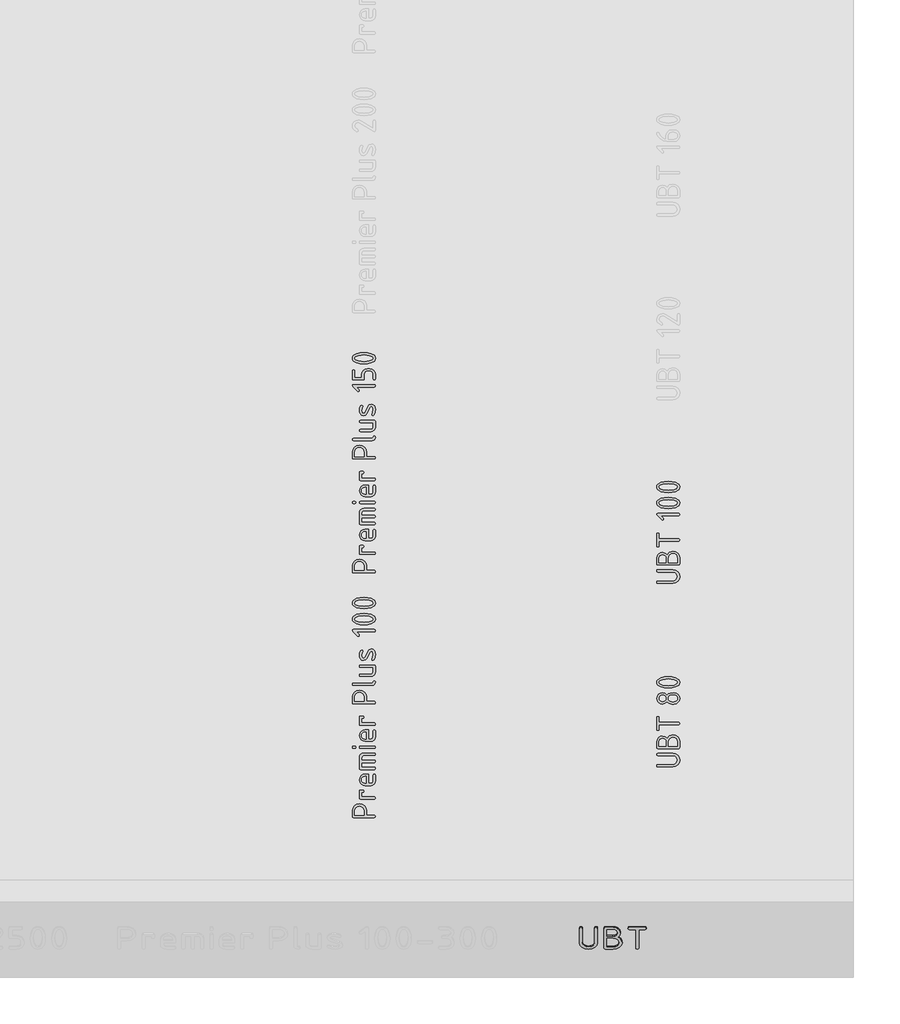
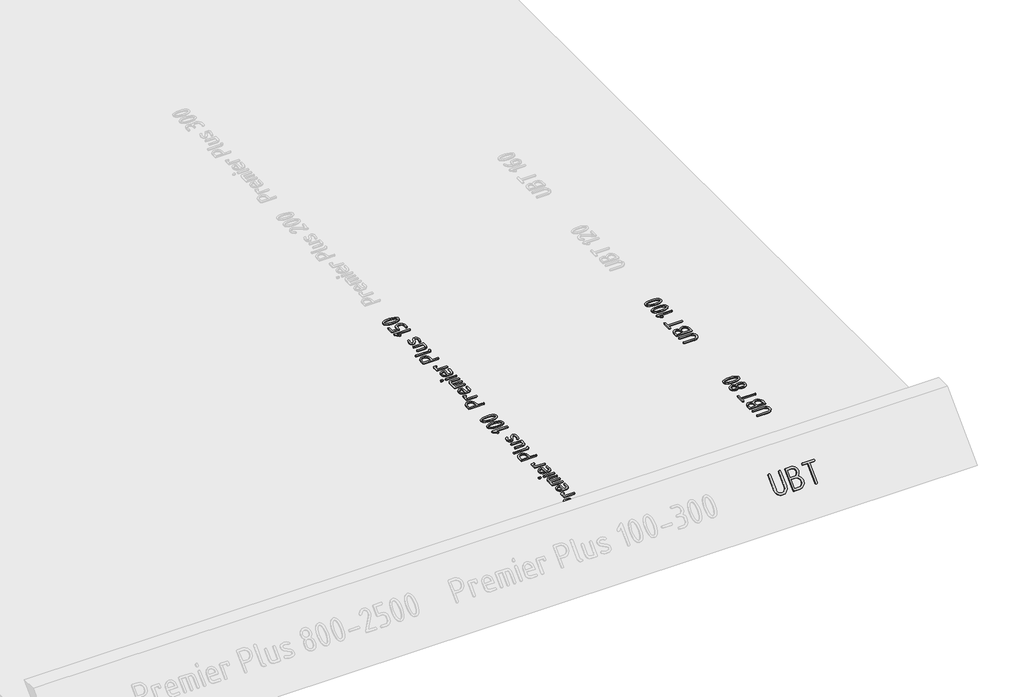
# One storey, part 29 of 37: 5 proxies.
"""IFC4 building model written with IfcOpenShell, lengths in millimetres."""

from ifc_helpers import new_model, si_unit, frame, origin, place, context, project, spatial, polyline, outline, extrude, element, save

model = new_model("IFC4")

# Units and contexts
model_context = context("Model", 3, world=origin())
ifc_project = project(units=[si_unit("LENGTHUNIT", "METRE", prefix="MILLI")], contexts=[model_context])

# Site, building, storey
site = spatial("IfcSite", under=ifc_project)
building = spatial("IfcBuilding", under=site)
storey = spatial("IfcBuildingStorey", under=building, Name="01_Стартовый вид_Площадка", Elevation=0.0)

# Proxies
placement = place(None, origin())
element("IfcBuildingElementProxy", 1, Name="200мм", ObjectType="200мм", at=placement, inside=storey, context=model_context, shape_type="SweptSolid", body=[
    extrude(outline(polyline([(7.9720216, 0.0), (131.7875259, -41.9269433), (152.3216666, -53.491984), (166.5977059, -72.1612412), (172.9760707, -94.6799948), (169.8171877, -117.793525), (158.2828469, -138.0709214), (139.5348379, -152.0812733), (116.8529077, -158.2356624), (93.5168034, -154.9451706), (-30.2987009, -113.0182273), (-36.6305486, -108.1745889), (-36.5542661, -100.1018584), (-31.7226408, -93.6394027), (-23.7884601, -93.6265889), (99.825226, -135.4851916), (115.4887992, -137.7874481), (130.4913242, -133.8622364), (142.8151521, -124.6854118), (150.4426345, -111.2328298), (152.5579554, -95.9136957), (148.3452996, -81.1372152), (138.814292, -68.9043522), (124.9745579, -61.2160708), (1.3608718, -19.3574681), (-4.9331351, -14.5266436), (-4.8442389, -6.4581844), (0.0, 0.0), (7.9720216, 0.0)])), frame((34805.8999911, -17888.306847, 243.3672278), z_axis=(0.0, -0.7071067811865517, 0.7071067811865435), x_axis=(0.3207345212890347, -0.6697497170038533, -0.6697497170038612)), (0.0, 0.0, 1.0), 10.0),
    extrude(outline(polyline([(22.6282753, -1e-07), (22.0238968, 15.8740584), (25.3574849, 30.2413957), (32.6290396, 43.1020119), (43.8385611, 54.455907), (64.3569418, 65.3546993), (87.5595215, 67.2010169), (109.8409821, 60.3762532), (127.5960054, 45.2618018), (158.7465525, 6.5356757), (161.4679402, -0.8632553), (157.1451746, -7.5363918), (16.1040423, -120.9871516), (8.6678914, -123.7897509), (2.0491232, -119.57707), (-29.0346489, -80.9339581), (-38.2153168, -63.6138972), (-39.5815125, -44.1952824), (-33.483515, -25.4722251), (-20.2716031, -10.2388365), (0.0, 0.0), (22.6282753, -1e-07)]), holes=[polyline([(11.3771233, -98.53786), (59.1933047, -60.0754482), (34.7870348, -29.7337567), (25.98961, -22.3770187), (14.8220403, -19.2340431), (3.0775094, -20.4518759), (-7.4507992, -26.1775636), (-15.29976, -35.2341961), (-19.0062477, -46.4448639), (-18.3295981, -58.0265327), (-13.0291467, -68.1961685), (11.3771233, -98.53786)]), polyline([(75.1320318, -47.2546443), (136.2304859, 1.8917708), (111.6572783, 32.4409978), (99.9222229, 42.4936519), (85.3505379, 47.0002251), (70.1516145, 45.7211896), (56.5348438, 38.4170173), (46.4821897, 26.6819619), (41.9756165, 12.1102769), (43.2546519, -3.0886465), (50.5588242, -16.7054172), (75.1320318, -47.2546443)])]), frame((34953.734236, -17938.3941835, 193.2798914), z_axis=(0.0, -0.7071067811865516, 0.7071067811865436), x_axis=(-0.6267741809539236, -0.5509782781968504, -0.5509782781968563)), (0.0, 0.0, 1.0), 10.0),
    extrude(outline(polyline([(8.068949, 0.0), (14.5842427, -4.7601348), (14.6844672, -12.6936928), (-16.4878043, -108.200227), (-21.236598, -114.5090936), (-29.3014148, -114.4964336), (-35.8208407, -109.7489588), (-35.9334613, -101.8533806), (-23.5207487, -63.822942), (-185.7704496, -10.8664424), (-192.1172959, -6.1052527), (-192.1172959, 1.9636963), (-187.3571611, 8.4789901), (-179.4236032, 8.5792146), (-17.1739024, -44.377285), (-4.7611898, -6.3468464), (0.0, 0.0), (8.068949, 0.0)])), frame((35009.8129681, -17899.1831158, 232.490959), z_axis=(0.0, -0.7071067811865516, 0.7071067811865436), x_axis=(-0.3102800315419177, 0.6722076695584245, 0.6722076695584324)), (0.0, 0.0, 1.0), 10.0),
])
element("IfcBuildingElementProxy", 2, Name="150 мм", ObjectType="150 мм", at=placement, inside=storey, context=model_context, shape_type="SweptSolid", body=[
    extrude(outline(polyline([(35202.1598658, -16755.5522205), (35300.2010973, -16755.5522205), (35317.5700563, -16758.8282519), (35332.2023305, -16768.656346), (35342.1502794, -16783.118826), (35345.4662624, -16800.2980149), (35342.1502794, -16817.4772038), (35332.2023305, -16831.9396837), (35317.5700563, -16841.7677778), (35300.2010973, -16845.0438092), (35202.1598658, -16845.0438092), (35196.4967262, -16843.1261323), (35194.609013, -16837.3731016), (35196.4867383, -16831.6200709), (35202.1199142, -16829.702394), (35300.0013393, -16829.702394), (35311.6821889, -16827.5699772), (35321.3954222, -16821.172727), (35327.942491, -16811.6892154), (35330.1248472, -16800.2980149), (35327.942491, -16788.9068143), (35321.3954222, -16779.4233028), (35311.6821889, -16773.0260525), (35300.0013393, -16770.8936357), (35202.1199142, -16770.8936357), (35196.4867383, -16768.9759588), (35194.609013, -16763.2229281), (35196.4967262, -16757.4698974), (35202.1598658, -16755.5522205)])), frame((0.0, 0.0, 11.1696829), z_axis=(0.0, 0.0, 1.0), x_axis=(1.0, 0.0, 0.0)), (0.0, 0.0, 1.0), 10.0),
    extrude(outline(polyline([(35262.8463493, -16657.2313278), (35278.6571958, -16640.8411831), (35300.8403229, -16635.3778015), (35317.9545904, -16638.6538329), (35332.3821127, -16648.481927), (35342.195225, -16662.9444069), (35345.4662624, -16680.1235958), (35345.4662624, -16717.3984406), (35343.5785492, -16723.0016527), (35337.9154096, -16724.8693901), (35202.1598658, -16724.8693901), (35196.4967262, -16723.0116406), (35194.609013, -16717.4383922), (35194.609013, -16680.2434506), (35197.3856493, -16665.8059404), (35205.7155584, -16653.8154659), (35218.0805792, -16645.7402483), (35232.962551, -16643.0485091), (35249.622369, -16646.5942138), (35262.8463493, -16657.2313278)]), holes=[polyline([(35271.316089, -16709.5279749), (35330.1248472, -16709.5279749), (35330.1248472, -16680.1235958), (35327.9924305, -16668.7323953), (35321.5951802, -16659.2488837), (35312.1116686, -16652.8516335), (35300.7204681, -16650.7192167), (35289.3292675, -16652.8516335), (35279.845756, -16659.2488837), (35273.4485057, -16668.7323953), (35271.316089, -16680.1235958), (35271.316089, -16709.5279749)]), polyline([(35209.9504282, -16709.5279749), (35255.9746738, -16709.5279749), (35255.9746738, -16680.3233538), (35254.2917125, -16671.8885718), (35249.2428288, -16664.8021564), (35241.8068369, -16659.9929823), (35232.962551, -16658.3899243), (35224.1182651, -16659.9929823), (35216.6822731, -16664.8021564), (35211.6333894, -16671.8885718), (35209.9504282, -16680.3233538), (35209.9504282, -16709.5279749)])]), frame((0.0, 0.0, 11.1696829), z_axis=(0.0, 0.0, 1.0), x_axis=(1.0, 0.0, 0.0)), (0.0, 0.0, 1.0), 10.0),
    extrude(outline(polyline([(35202.2797206, -16606.41289), (35196.5266899, -16604.5351647), (35194.609013, -16598.9019888), (35194.609013, -16523.5532673), (35196.5266899, -16517.9500551), (35202.2797206, -16516.0823177), (35208.0327513, -16517.9500551), (35209.9504282, -16523.5532673), (35209.9504282, -16553.5569204), (35337.9553612, -16553.5569204), (35343.5885371, -16555.4745973), (35345.4662624, -16561.227628), (35343.5885371, -16566.9806587), (35337.9553612, -16568.8983356), (35209.9504282, -16568.8983356), (35209.9504282, -16598.9019888), (35208.0327513, -16604.5351647), (35202.2797206, -16606.41289)])), frame((0.0, 0.0, 11.1696829), z_axis=(0.0, 0.0, 1.0), x_axis=(1.0, 0.0, 0.0)), (0.0, 0.0, 1.0), 10.0),
    extrude(outline(polyline([(35345.4662624, -16396.3074147), (35342.7096019, -16410.5551548), (35334.4396202, -16422.5356414), (35322.2543816, -16430.6707864), (35307.7519501, -16433.3825014), (35292.6502445, -16433.3825014), (35275.7407289, -16429.5471476), (35262.4867849, -16418.0410862), (35249.2328409, -16429.5471476), (35232.3233253, -16433.3825014), (35217.8208938, -16430.6707864), (35205.6356551, -16422.5356414), (35197.3656735, -16410.5551548), (35194.609013, -16396.3074147), (35197.3656735, -16382.0596746), (35205.6356551, -16370.0791879), (35217.8208938, -16361.9440429), (35232.3233253, -16359.2323279), (35249.2328409, -16363.0676817), (35262.4867849, -16374.5737431), (35271.6656655, -16366.3237373), (35282.7422472, -16361.7892305), (35307.7519501, -16359.2323279), (35322.2543816, -16361.9440429), (35334.4396202, -16370.0791879), (35342.7096019, -16382.0596746), (35345.4662624, -16396.3074147)]), holes=[polyline([(35330.1248472, -16396.3074147), (35328.4868315, -16387.8976024), (35323.5727845, -16380.8860963), (35316.3015929, -16376.1518314), (35307.5921436, -16374.5737431), (35292.6102929, -16374.5737431), (35283.9807468, -16376.1668133), (35276.7095552, -16380.9460237), (35271.7655445, -16387.9725117), (35270.1175409, -16396.3074147), (35271.7505626, -16404.7172269), (35276.6496278, -16411.7287331), (35283.9058376, -16416.4629979), (35292.6102929, -16418.0410862), (35307.5921436, -16418.0410862), (35316.3015929, -16416.4629979), (35323.5727845, -16411.7287331), (35328.4868315, -16404.7172269), (35330.1248472, -16396.3074147)]), polyline([(35255.4553029, -16396.3074147), (35253.8222812, -16387.8976024), (35248.923216, -16380.8860963), (35241.6670063, -16376.1518314), (35232.962551, -16374.5737431), (35224.3330049, -16376.1668133), (35217.0618133, -16380.9460237), (35212.1178026, -16387.9725117), (35210.469799, -16396.3074147), (35212.1028207, -16404.7172269), (35217.0018859, -16411.7287331), (35224.2580957, -16416.4629979), (35232.962551, -16418.0410862), (35241.6670063, -16416.4629979), (35248.923216, -16411.7287331), (35253.8222812, -16404.7172269), (35255.4553029, -16396.3074147)])]), frame((0.0, 0.0, 11.1696829), z_axis=(0.0, 0.0, 1.0), x_axis=(1.0, 0.0, 0.0)), (0.0, 0.0, 1.0), 10.0),
    extrude(outline(polyline([(35270.0376377, -16254.3993241), (35295.1771833, -16256.0273519), (35316.6611573, -16260.9114352), (35338.2649861, -16273.3263956), (35343.6659433, -16281.6837713), (35345.4662624, -16291.4744108), (35343.6734343, -16301.2650503), (35338.2949498, -16309.6224261), (35316.7810121, -16322.0373864), (35295.2670744, -16326.9214698), (35270.0376377, -16328.5494975), (35244.808201, -16326.9214698), (35223.2942633, -16322.0373864), (35201.7803255, -16309.6224261), (35196.4018411, -16301.2650503), (35194.609013, -16291.4744108), (35196.409332, -16281.6837713), (35201.8102892, -16273.3263956), (35223.4141181, -16260.9114352), (35244.8980921, -16256.0273519), (35270.0376377, -16254.3993241)]), holes=[polyline([(35270.0376377, -16269.7407393), (35234.8802279, -16273.5760931), (35216.1828781, -16280.9671395), (35209.9504282, -16291.4744108), (35216.2128418, -16301.8917911), (35235.0000827, -16309.2528737), (35270.0376377, -16313.2080823), (35305.1950475, -16309.3727285), (35323.8923973, -16301.9816822), (35330.1248472, -16291.4744108), (35323.8923973, -16280.9671395), (35305.1950475, -16273.5760931), (35270.0376377, -16269.7407393)])]), frame((0.0, 0.0, 11.1696829), z_axis=(0.0, 0.0, 1.0), x_axis=(1.0, 0.0, 0.0)), (0.0, 0.0, 1.0), 10.0),
])
element("IfcBuildingElementProxy", 3, Name="150 мм", ObjectType="150 мм", at=placement, inside=storey, context=model_context, shape_type="SweptSolid", body=[
    extrude(outline(polyline([(35202.1598658, -15555.5522205), (35300.2010973, -15555.5522205), (35317.5700563, -15558.8282519), (35332.2023305, -15568.656346), (35342.1502794, -15583.118826), (35345.4662624, -15600.2980149), (35342.1502794, -15617.4772038), (35332.2023305, -15631.9396837), (35317.5700563, -15641.7677778), (35300.2010973, -15645.0438092), (35202.1598658, -15645.0438092), (35196.4967262, -15643.1261323), (35194.609013, -15637.3731016), (35196.4867383, -15631.6200709), (35202.1199142, -15629.702394), (35300.0013393, -15629.702394), (35311.6821889, -15627.5699772), (35321.3954222, -15621.172727), (35327.942491, -15611.6892154), (35330.1248472, -15600.2980149), (35327.942491, -15588.9068143), (35321.3954222, -15579.4233028), (35311.6821889, -15573.0260525), (35300.0013393, -15570.8936357), (35202.1199142, -15570.8936357), (35196.4867383, -15568.9759588), (35194.609013, -15563.2229281), (35196.4967262, -15557.4698974), (35202.1598658, -15555.5522205)])), frame((0.0, 0.0, 11.1696829), z_axis=(0.0, 0.0, 1.0), x_axis=(1.0, 0.0, 0.0)), (0.0, 0.0, 1.0), 10.0),
    extrude(outline(polyline([(35262.8463493, -15457.2313278), (35278.6571958, -15440.8411831), (35300.8403229, -15435.3778015), (35317.9545904, -15438.6538329), (35332.3821127, -15448.481927), (35342.195225, -15462.9444069), (35345.4662624, -15480.1235958), (35345.4662624, -15517.3984406), (35343.5785492, -15523.0016527), (35337.9154096, -15524.8693901), (35202.1598658, -15524.8693901), (35196.4967262, -15523.0116406), (35194.609013, -15517.4383922), (35194.609013, -15480.2434506), (35197.3856493, -15465.8059404), (35205.7155584, -15453.8154659), (35218.0805792, -15445.7402483), (35232.962551, -15443.0485091), (35249.622369, -15446.5942138), (35262.8463493, -15457.2313278)]), holes=[polyline([(35271.316089, -15509.5279749), (35330.1248472, -15509.5279749), (35330.1248472, -15480.1235958), (35327.9924305, -15468.7323953), (35321.5951802, -15459.2488837), (35312.1116686, -15452.8516335), (35300.7204681, -15450.7192167), (35289.3292675, -15452.8516335), (35279.845756, -15459.2488837), (35273.4485057, -15468.7323953), (35271.316089, -15480.1235958), (35271.316089, -15509.5279749)]), polyline([(35209.9504282, -15509.5279749), (35255.9746738, -15509.5279749), (35255.9746738, -15480.3233538), (35254.2917125, -15471.8885718), (35249.2428288, -15464.8021564), (35241.8068369, -15459.9929823), (35232.962551, -15458.3899243), (35224.1182651, -15459.9929823), (35216.6822731, -15464.8021564), (35211.6333894, -15471.8885718), (35209.9504282, -15480.3233538), (35209.9504282, -15509.5279749)])]), frame((0.0, 0.0, 11.1696829), z_axis=(0.0, 0.0, 1.0), x_axis=(1.0, 0.0, 0.0)), (0.0, 0.0, 1.0), 10.0),
    extrude(outline(polyline([(35202.2797206, -15406.41289), (35196.5266899, -15404.5351647), (35194.609013, -15398.9019888), (35194.609013, -15323.5532673), (35196.5266899, -15317.9500551), (35202.2797206, -15316.0823177), (35208.0327513, -15317.9500551), (35209.9504282, -15323.5532673), (35209.9504282, -15353.5569204), (35337.9553612, -15353.5569204), (35343.5885371, -15355.4745973), (35345.4662624, -15361.227628), (35343.5885371, -15366.9806587), (35337.9553612, -15368.8983356), (35209.9504282, -15368.8983356), (35209.9504282, -15398.9019888), (35208.0327513, -15404.5351647), (35202.2797206, -15406.41289)])), frame((0.0, 0.0, 11.1696829), z_axis=(0.0, 0.0, 1.0), x_axis=(1.0, 0.0, 0.0)), (0.0, 0.0, 1.0), 10.0),
    extrude(outline(polyline([(35220.3378447, -15202.699671), (35237.6368884, -15219.9587631), (35239.7942749, -15225.192423), (35237.9165496, -15230.8255989), (35232.2833737, -15232.7033242), (35227.0497139, -15230.505986), (35197.5654315, -15201.1815101), (35194.609013, -15195.0289634), (35196.4967262, -15189.2759327), (35202.1598658, -15187.3582558), (35337.9154096, -15187.3582558), (35343.5785492, -15189.2759327), (35345.4662624, -15195.0289634), (35343.5785492, -15200.7819941), (35337.9154096, -15202.699671), (35220.3378447, -15202.699671)])), frame((0.0, 0.0, 11.1696829), z_axis=(0.0, 0.0, 1.0), x_axis=(1.0, 0.0, 0.0)), (0.0, 0.0, 1.0), 10.0),
    extrude(outline(polyline([(35270.0376377, -15082.5252519), (35295.1771833, -15084.1532797), (35316.6611573, -15089.0373631), (35338.2649861, -15101.4523234), (35343.6659433, -15109.8096992), (35345.4662624, -15119.6003387), (35343.6734343, -15129.3909782), (35338.2949498, -15137.7483539), (35316.7810121, -15150.1633143), (35295.2670744, -15155.0473976), (35270.0376377, -15156.6754254), (35244.808201, -15155.0473976), (35223.2942633, -15150.1633143), (35201.7803255, -15137.7483539), (35196.4018411, -15129.3909782), (35194.609013, -15119.6003387), (35196.409332, -15109.8096992), (35201.8102892, -15101.4523234), (35223.4141181, -15089.0373631), (35244.8980921, -15084.1532797), (35270.0376377, -15082.5252519)]), holes=[polyline([(35270.0376377, -15097.8666671), (35234.8802279, -15101.7020209), (35216.1828781, -15109.0930673), (35209.9504282, -15119.6003387), (35216.2128418, -15130.0177189), (35235.0000827, -15137.3788016), (35270.0376377, -15141.3340102), (35305.1950475, -15137.4986564), (35323.8923973, -15130.10761), (35330.1248472, -15119.6003387), (35323.8923973, -15109.0930673), (35305.1950475, -15101.7020209), (35270.0376377, -15097.8666671)])]), frame((0.0, 0.0, 11.1696829), z_axis=(0.0, 0.0, 1.0), x_axis=(1.0, 0.0, 0.0)), (0.0, 0.0, 1.0), 10.0),
    extrude(outline(polyline([(35270.0376377, -14977.6922481), (35295.1771833, -14979.3202759), (35316.6611573, -14984.2043592), (35338.2649861, -14996.6193196), (35343.6659433, -15004.9766953), (35345.4662624, -15014.7673348), (35343.6734343, -15024.5579743), (35338.2949498, -15032.9153501), (35316.7810121, -15045.3303104), (35295.2670744, -15050.2143938), (35270.0376377, -15051.8424216), (35244.808201, -15050.2143938), (35223.2942633, -15045.3303104), (35201.7803255, -15032.9153501), (35196.4018411, -15024.5579743), (35194.609013, -15014.7673348), (35196.409332, -15004.9766953), (35201.8102892, -14996.6193196), (35223.4141181, -14984.2043592), (35244.8980921, -14979.3202759), (35270.0376377, -14977.6922481)]), holes=[polyline([(35270.0376377, -14993.0336633), (35234.8802279, -14996.8690171), (35216.1828781, -15004.2600635), (35209.9504282, -15014.7673348), (35216.2128418, -15025.1847151), (35235.0000827, -15032.5457978), (35270.0376377, -15036.5010064), (35305.1950475, -15032.6656526), (35323.8923973, -15025.2746062), (35330.1248472, -15014.7673348), (35323.8923973, -15004.2600635), (35305.1950475, -14996.8690171), (35270.0376377, -14993.0336633)])]), frame((0.0, 0.0, 11.1696829), z_axis=(0.0, 0.0, 1.0), x_axis=(1.0, 0.0, 0.0)), (0.0, 0.0, 1.0), 10.0),
])
element("IfcBuildingElementProxy", 4, Name="150 мм", ObjectType="150 мм", at=placement, inside=storey, context=model_context, shape_type="SweptSolid", body=[
    extrude(outline(polyline([(33204.4863843, -17168.7582704), (33204.4863843, -17131.4834256), (33207.8423188, -17114.2293275), (33217.9101226, -17099.7818294), (33232.7721185, -17089.9986808), (33250.5106299, -17086.7376313), (33269.0481732, -17089.8288865), (33283.7503628, -17099.1026521), (33293.3387473, -17113.3204285), (33296.5348755, -17131.243716), (33296.5348755, -17160.8878048), (33347.9925389, -17160.8878048), (33353.50586, -17162.8054817), (33355.3436337, -17168.5585124), (33353.4559205, -17174.3115431), (33347.7927809, -17176.22922), (33212.0372371, -17176.22922), (33206.3740975, -17174.3614826), (33204.4863843, -17168.7582704)]), holes=[polyline([(33219.8277995, -17160.8878048), (33281.1934603, -17160.8878048), (33281.1934603, -17131.4834256), (33278.9711524, -17120.0922251), (33272.3042288, -17110.6087135), (33262.4112133, -17104.2114633), (33250.5106299, -17102.0790465), (33238.6100464, -17104.2114633), (33228.7170309, -17110.6087135), (33222.0501073, -17120.0922251), (33219.8277995, -17131.4834256), (33219.8277995, -17160.8878048)])]), frame((0.0, 0.0, 11.1696829), z_axis=(0.0, 0.0, 1.0), x_axis=(1.0, 0.0, 0.0)), (0.0, 0.0, 1.0), 10.0),
    extrude(outline(polyline([(33257.9815795, -17056.0548009), (33252.3783673, -17054.137124), (33250.5106299, -17048.3840933), (33250.5106299, -17003.1988314), (33252.4283068, -16997.5956192), (33258.1813375, -16995.7278818), (33273.3629463, -16995.7278818), (33278.9961221, -16997.5956192), (33280.8738474, -17003.1988314), (33278.9961221, -17008.8320073), (33273.3629463, -17010.7097326), (33265.8520451, -17010.7097326), (33265.8520451, -17040.7133857), (33347.8726841, -17040.7133857), (33353.4758963, -17042.6310626), (33355.3436337, -17048.3840933), (33353.4758963, -17054.137124), (33347.8726841, -17056.0548009), (33257.9815795, -17056.0548009)])), frame((0.0, 0.0, 11.1696829), z_axis=(0.0, 0.0, 1.0), x_axis=(1.0, 0.0, 0.0)), (0.0, 0.0, 1.0), 10.0),
    extrude(outline(polyline([(33309.3193881, -16951.2217971), (33324.6608033, -16951.2217971), (33335.4677117, -16946.7871692), (33340.0022185, -16936.2399463), (33340.0022185, -16898.7253919), (33341.9198954, -16893.092216), (33347.6729261, -16891.2144907), (33353.4259568, -16893.092216), (33355.3436337, -16898.7253919), (33355.3436337, -16936.2399463), (33353.1762593, -16947.8958262), (33346.6741361, -16957.6939566), (33337.0158363, -16964.3458983), (33325.3799322, -16966.5632123), (33287.945281, -16966.5632123), (33273.5527164, -16963.781582), (33261.4573688, -16955.4366911), (33253.2473146, -16943.196519), (33250.5106299, -16928.7290451), (33253.1674114, -16914.1517043), (33261.137756, -16902.0613507), (33272.983406, -16893.9262057), (33287.2661038, -16891.2144907), (33309.3193881, -16891.2144907), (33309.3193881, -16951.2217971)]), holes=[polyline([(33263.9743198, -16928.7290451), (33265.6223234, -16937.3585911), (33270.5663341, -16944.6297827), (33277.8375257, -16949.5737935), (33286.4670717, -16951.2217971), (33293.9779729, -16951.2217971), (33293.9779729, -16906.2362931), (33286.4670717, -16906.2362931), (33277.8375257, -16907.8842967), (33270.5663341, -16912.8283075), (33265.6223234, -16920.099499), (33263.9743198, -16928.7290451)])]), frame((0.0, 0.0, 11.1696829), z_axis=(0.0, 0.0, 1.0), x_axis=(1.0, 0.0, 0.0)), (0.0, 0.0, 1.0), 10.0),
    extrude(outline(polyline([(33250.5106299, -16854.0595008), (33250.5106299, -16785.0231324), (33252.6780043, -16773.122549), (33259.1801275, -16763.2295335), (33268.8384273, -16756.5626099), (33280.4743314, -16754.340302), (33347.8726841, -16754.340302), (33353.4758963, -16756.2579789), (33355.3436337, -16762.0110096), (33353.4758963, -16767.7640403), (33347.8726841, -16769.6817172), (33280.7539926, -16769.6817172), (33270.1468423, -16774.0963693), (33265.8520451, -16785.0231324), (33265.8520451, -16800.3645476), (33347.8726841, -16800.3645476), (33353.4758963, -16802.2822245), (33355.3436337, -16808.0352552), (33353.4758963, -16813.7882859), (33347.8726841, -16815.7059628), (33265.8520451, -16815.7059628), (33265.8520451, -16846.3887932), (33347.8726841, -16846.3887932), (33353.4758963, -16848.3064701), (33355.3436337, -16854.0595008), (33353.4758963, -16859.8125315), (33347.8726841, -16861.7302084), (33257.9815795, -16861.7302084), (33252.3783673, -16859.8125315), (33250.5106299, -16854.0595008)])), frame((0.0, 0.0, 11.1696829), z_axis=(0.0, 0.0, 1.0), x_axis=(1.0, 0.0, 0.0)), (0.0, 0.0, 1.0), 10.0),
    extrude(outline(polyline([(33257.821773, -16723.6574716), (33252.2185609, -16721.7397947), (33250.3508235, -16715.986764), (33252.2185609, -16710.2337333), (33257.821773, -16708.3160564), (33347.8327325, -16708.3160564), (33353.4659084, -16710.2337333), (33355.3436337, -16715.986764), (33353.4659084, -16721.7397947), (33347.8327325, -16723.6574716), (33257.821773, -16723.6574716)])), frame((0.0, 0.0, 11.1696829), z_axis=(0.0, 0.0, 1.0), x_axis=(1.0, 0.0, 0.0)), (0.0, 0.0, 1.0), 10.0),
    extrude(outline(polyline([(33219.5081867, -16723.6574716), (33211.9972855, -16723.6574716), (33206.3641096, -16721.7397947), (33204.4863843, -16715.986764), (33206.3641096, -16710.2337333), (33211.9972855, -16708.3160564), (33219.5081867, -16708.3160564), (33225.1413625, -16710.2337333), (33227.0190878, -16715.986764), (33225.1413625, -16721.7397947), (33219.5081867, -16723.6574716)])), frame((0.0, 0.0, 11.1696829), z_axis=(0.0, 0.0, 1.0), x_axis=(1.0, 0.0, 0.0)), (0.0, 0.0, 1.0), 10.0),
    extrude(outline(polyline([(33309.3193881, -16662.2918108), (33324.6608033, -16662.2918108), (33335.4677117, -16657.857183), (33340.0022185, -16647.3099601), (33340.0022185, -16609.7954057), (33341.9198954, -16604.1622298), (33347.6729261, -16602.2845045), (33353.4259568, -16604.1622298), (33355.3436337, -16609.7954057), (33355.3436337, -16647.3099601), (33353.1762593, -16658.96584), (33346.6741361, -16668.7639704), (33337.0158363, -16675.4159121), (33325.3799322, -16677.633226), (33287.945281, -16677.633226), (33273.5527164, -16674.8515957), (33261.4573688, -16666.5067049), (33253.2473146, -16654.2665328), (33250.5106299, -16639.7990589), (33253.1674114, -16625.2217181), (33261.137756, -16613.1313645), (33272.983406, -16604.9962195), (33287.2661038, -16602.2845045), (33309.3193881, -16602.2845045), (33309.3193881, -16662.2918108)]), holes=[polyline([(33263.9743198, -16639.7990589), (33265.6223234, -16648.4286049), (33270.5663341, -16655.6997965), (33277.8375257, -16660.6438073), (33286.4670717, -16662.2918108), (33293.9779729, -16662.2918108), (33293.9779729, -16617.3063069), (33286.4670717, -16617.3063069), (33277.8375257, -16618.9543105), (33270.5663341, -16623.8983212), (33265.6223234, -16631.1695128), (33263.9743198, -16639.7990589)])]), frame((0.0, 0.0, 11.1696829), z_axis=(0.0, 0.0, 1.0), x_axis=(1.0, 0.0, 0.0)), (0.0, 0.0, 1.0), 10.0),
    extrude(outline(polyline([(33257.9815795, -16572.8002222), (33252.3783673, -16570.8825453), (33250.5106299, -16565.1295146), (33250.5106299, -16519.9442526), (33252.4283068, -16514.3410404), (33258.1813375, -16512.4733031), (33273.3629463, -16512.4733031), (33278.9961221, -16514.3410404), (33280.8738474, -16519.9442526), (33278.9961221, -16525.5774285), (33273.3629463, -16527.4551538), (33265.8520451, -16527.4551538), (33265.8520451, -16557.458807), (33347.8726841, -16557.458807), (33353.4758963, -16559.3764839), (33355.3436337, -16565.1295146), (33353.4758963, -16570.8825453), (33347.8726841, -16572.8002222), (33257.9815795, -16572.8002222)])), frame((0.0, 0.0, 11.1696829), z_axis=(0.0, 0.0, 1.0), x_axis=(1.0, 0.0, 0.0)), (0.0, 0.0, 1.0), 10.0),
    extrude(outline(polyline([(33204.4863843, -16424.6996333), (33204.4863843, -16387.4247886), (33207.8423188, -16370.1706904), (33217.9101226, -16355.7231923), (33232.7721185, -16345.9400437), (33250.5106299, -16342.6789942), (33269.0481732, -16345.7702494), (33283.7503628, -16355.0440151), (33293.3387473, -16369.2617915), (33296.5348755, -16387.1850789), (33296.5348755, -16416.8291677), (33347.9925389, -16416.8291677), (33353.50586, -16418.7468446), (33355.3436337, -16424.4998753), (33353.4559205, -16430.252906), (33347.7927809, -16432.1705829), (33212.0372371, -16432.1705829), (33206.3740975, -16430.3028455), (33204.4863843, -16424.6996333)]), holes=[polyline([(33219.8277995, -16416.8291677), (33281.1934603, -16416.8291677), (33281.1934603, -16387.4247886), (33278.9711524, -16376.033588), (33272.3042288, -16366.5500765), (33262.4112133, -16360.1528262), (33250.5106299, -16358.0204094), (33238.6100464, -16360.1528262), (33228.7170309, -16366.5500765), (33222.0501073, -16376.033588), (33219.8277995, -16387.4247886), (33219.8277995, -16416.8291677)])]), frame((0.0, 0.0, 11.1696829), z_axis=(0.0, 0.0, 1.0), x_axis=(1.0, 0.0, 0.0)), (0.0, 0.0, 1.0), 10.0),
    extrude(outline(polyline([(33212.0372371, -16311.9961638), (33206.3740975, -16310.0784869), (33204.4863843, -16304.3254562), (33206.3740975, -16298.5724255), (33212.0372371, -16296.6547486), (33332.7310269, -16296.6547486), (33337.5052434, -16294.7820173), (33340.2419281, -16289.1638232), (33342.9886008, -16283.5456292), (33347.7927809, -16281.6728979), (33353.4559205, -16283.5406353), (33355.3436337, -16289.1438474), (33353.8454486, -16298.3676736), (33349.3508934, -16305.6638349), (33342.1995566, -16310.4130816), (33332.7310269, -16311.9961638), (33212.0372371, -16311.9961638)])), frame((0.0, 0.0, 11.1696829), z_axis=(0.0, 0.0, 1.0), x_axis=(1.0, 0.0, 0.0)), (0.0, 0.0, 1.0), 10.0),
    extrude(outline(polyline([(33257.9815795, -16179.0372321), (33347.8726841, -16179.0372321), (33353.4758963, -16180.8949816), (33355.3436337, -16186.4682301), (33355.3436337, -16223.5433168), (33353.1762593, -16235.0393903), (33346.6741361, -16244.5978111), (33337.0158363, -16251.040007), (33325.3799322, -16253.1874056), (33257.9815795, -16253.1874056), (33252.3783673, -16251.2697287), (33250.5106299, -16245.516698), (33252.3783673, -16239.7636673), (33257.9815795, -16237.8459904), (33325.1002709, -16237.8459904), (33335.5875665, -16233.571169), (33340.0022185, -16223.3435588), (33340.0022185, -16194.3786473), (33257.9815795, -16194.3786473), (33252.3783673, -16192.4609704), (33250.5106299, -16186.7079397), (33252.3783673, -16180.954909), (33257.9815795, -16179.0372321)])), frame((0.0, 0.0, 11.1696829), z_axis=(0.0, 0.0, 1.0), x_axis=(1.0, 0.0, 0.0)), (0.0, 0.0, 1.0), 10.0),
    extrude(outline(polyline([(33328.8157699, -16088.7066598), (33322.6931869, -16090.294736), (33318.6281114, -16095.0589646), (33300.1704712, -16133.572309), (33290.6420142, -16144.9285518), (33276.5191228, -16148.7139661), (33265.0929646, -16146.0372088), (33256.623225, -16138.0069368), (33252.0387786, -16127.6794476), (33250.5106299, -16115.0747172), (33252.6280648, -16099.2239191), (33258.9803695, -16085.1509672), (33265.7321903, -16081.1957586), (33271.0257775, -16083.4130725), (33273.2430914, -16088.7066598), (33272.3242046, -16092.2224008), (33267.4700849, -16103.3289462), (33265.8520451, -16115.0747172), (33268.6286814, -16129.0378021), (33276.9585904, -16133.6921638), (33282.9413429, -16132.1540271), (33286.9065394, -16127.539617), (33305.5639375, -16088.7066598), (33315.0923946, -16077.440308), (33329.215286, -16073.6848574), (33341.1008876, -16076.3815906), (33349.590603, -16084.47179), (33353.905376, -16095.0290009), (33355.3436337, -16108.2429932), (33353.2261988, -16128.0889516), (33346.8738941, -16144.4790963), (33340.0022185, -16148.7139661), (33334.7086312, -16146.4966522), (33332.4913173, -16141.203065), (33333.0506398, -16138.3665012), (33337.245558, -16127.6594718), (33340.0022185, -16107.8035256), (33337.2056064, -16093.4808763), (33328.8157699, -16088.7066598)])), frame((0.0, 0.0, 11.1696829), z_axis=(0.0, 0.0, 1.0), x_axis=(1.0, 0.0, 0.0)), (0.0, 0.0, 1.0), 10.0),
    extrude(outline(polyline([(33230.215216, -15961.7005168), (33247.5142597, -15978.9596089), (33249.6716462, -15984.1932688), (33247.7939209, -15989.8264447), (33242.160745, -15991.70417), (33236.9270852, -15989.5068319), (33207.4428028, -15960.1823559), (33204.4863843, -15954.0298092), (33206.3740975, -15948.2767785), (33212.0372371, -15946.3591016), (33347.7927809, -15946.3591016), (33353.4559205, -15948.2767785), (33355.3436337, -15954.0298092), (33353.4559205, -15959.7828399), (33347.7927809, -15961.7005168), (33230.215216, -15961.7005168)])), frame((0.0, 0.0, 11.1696829), z_axis=(0.0, 0.0, 1.0), x_axis=(1.0, 0.0, 0.0)), (0.0, 0.0, 1.0), 10.0),
    extrude(outline(polyline([(33279.915009, -15841.5260978), (33305.0545546, -15843.1541256), (33326.5385286, -15848.0382089), (33348.1423574, -15860.4531693), (33353.5433146, -15868.810545), (33355.3436337, -15878.6011845), (33353.5508056, -15888.391824), (33348.1723211, -15896.7491997), (33326.6583834, -15909.1641601), (33305.1444457, -15914.0482434), (33279.915009, -15915.6762712), (33254.6855723, -15914.0482434), (33233.1716346, -15909.1641601), (33211.6576968, -15896.7491997), (33206.2792124, -15888.391824), (33204.4863843, -15878.6011845), (33206.2867033, -15868.810545), (33211.6876605, -15860.4531693), (33233.2914894, -15848.0382089), (33254.7754634, -15843.1541256), (33279.915009, -15841.5260978)]), holes=[polyline([(33279.915009, -15856.867513), (33244.7575992, -15860.7028668), (33226.0602494, -15868.0939132), (33219.8277995, -15878.6011845), (33226.0902131, -15889.0185647), (33244.877454, -15896.3796474), (33279.915009, -15900.334856), (33315.0724188, -15896.4995022), (33333.7697686, -15889.1084558), (33340.0022185, -15878.6011845), (33333.7697686, -15868.0939132), (33315.0724188, -15860.7028668), (33279.915009, -15856.867513)])]), frame((0.0, 0.0, 11.1696829), z_axis=(0.0, 0.0, 1.0), x_axis=(1.0, 0.0, 0.0)), (0.0, 0.0, 1.0), 10.0),
    extrude(outline(polyline([(33279.915009, -15736.6930939), (33305.0545546, -15738.3211217), (33326.5385286, -15743.2052051), (33348.1423574, -15755.6201654), (33353.5433146, -15763.9775412), (33355.3436337, -15773.7681807), (33353.5508056, -15783.5588201), (33348.1723211, -15791.9161959), (33326.6583834, -15804.3311562), (33305.1444457, -15809.2152396), (33279.915009, -15810.8432674), (33254.6855723, -15809.2152396), (33233.1716346, -15804.3311562), (33211.6576968, -15791.9161959), (33206.2792124, -15783.5588201), (33204.4863843, -15773.7681807), (33206.2867033, -15763.9775412), (33211.6876605, -15755.6201654), (33233.2914894, -15743.2052051), (33254.7754634, -15738.3211217), (33279.915009, -15736.6930939)]), holes=[polyline([(33279.915009, -15752.0345091), (33244.7575992, -15755.8698629), (33226.0602494, -15763.2609093), (33219.8277995, -15773.7681807), (33226.0902131, -15784.1855609), (33244.877454, -15791.5466436), (33279.915009, -15795.5018522), (33315.0724188, -15791.6664984), (33333.7697686, -15784.275452), (33340.0022185, -15773.7681807), (33333.7697686, -15763.2609093), (33315.0724188, -15755.8698629), (33279.915009, -15752.0345091)])]), frame((0.0, 0.0, 11.1696829), z_axis=(0.0, 0.0, 1.0), x_axis=(1.0, 0.0, 0.0)), (0.0, 0.0, 1.0), 10.0),
])
element("IfcBuildingElementProxy", 5, Name="150 мм", ObjectType="150 мм", at=placement, inside=storey, context=model_context, shape_type="SweptSolid", body=[
    extrude(outline(polyline([(33204.4863843, -15568.7582704), (33204.4863843, -15531.4834256), (33207.8423188, -15514.2293275), (33217.9101226, -15499.7818294), (33232.7721185, -15489.9986808), (33250.5106299, -15486.7376313), (33269.0481732, -15489.8288865), (33283.7503628, -15499.1026521), (33293.3387473, -15513.3204285), (33296.5348755, -15531.243716), (33296.5348755, -15560.8878048), (33347.9925389, -15560.8878048), (33353.50586, -15562.8054817), (33355.3436337, -15568.5585124), (33353.4559205, -15574.3115431), (33347.7927809, -15576.22922), (33212.0372371, -15576.22922), (33206.3740975, -15574.3614826), (33204.4863843, -15568.7582704)]), holes=[polyline([(33219.8277995, -15560.8878048), (33281.1934603, -15560.8878048), (33281.1934603, -15531.4834256), (33278.9711524, -15520.0922251), (33272.3042288, -15510.6087135), (33262.4112133, -15504.2114633), (33250.5106299, -15502.0790465), (33238.6100464, -15504.2114633), (33228.7170309, -15510.6087135), (33222.0501073, -15520.0922251), (33219.8277995, -15531.4834256), (33219.8277995, -15560.8878048)])]), frame((0.0, 0.0, 11.1696829), z_axis=(0.0, 0.0, 1.0), x_axis=(1.0, 0.0, 0.0)), (0.0, 0.0, 1.0), 10.0),
    extrude(outline(polyline([(33257.9815795, -15456.0548009), (33252.3783673, -15454.137124), (33250.5106299, -15448.3840933), (33250.5106299, -15403.1988314), (33252.4283068, -15397.5956192), (33258.1813375, -15395.7278818), (33273.3629463, -15395.7278818), (33278.9961221, -15397.5956192), (33280.8738474, -15403.1988314), (33278.9961221, -15408.8320073), (33273.3629463, -15410.7097326), (33265.8520451, -15410.7097326), (33265.8520451, -15440.7133857), (33347.8726841, -15440.7133857), (33353.4758963, -15442.6310626), (33355.3436337, -15448.3840933), (33353.4758963, -15454.137124), (33347.8726841, -15456.0548009), (33257.9815795, -15456.0548009)])), frame((0.0, 0.0, 11.1696829), z_axis=(0.0, 0.0, 1.0), x_axis=(1.0, 0.0, 0.0)), (0.0, 0.0, 1.0), 10.0),
    extrude(outline(polyline([(33309.3193881, -15351.2217971), (33324.6608033, -15351.2217971), (33335.4677117, -15346.7871692), (33340.0022185, -15336.2399463), (33340.0022185, -15298.7253919), (33341.9198954, -15293.092216), (33347.6729261, -15291.2144907), (33353.4259568, -15293.092216), (33355.3436337, -15298.7253919), (33355.3436337, -15336.2399463), (33353.1762593, -15347.8958262), (33346.6741361, -15357.6939566), (33337.0158363, -15364.3458983), (33325.3799322, -15366.5632123), (33287.945281, -15366.5632123), (33273.5527164, -15363.781582), (33261.4573688, -15355.4366911), (33253.2473146, -15343.196519), (33250.5106299, -15328.7290451), (33253.1674114, -15314.1517043), (33261.137756, -15302.0613507), (33272.983406, -15293.9262057), (33287.2661038, -15291.2144907), (33309.3193881, -15291.2144907), (33309.3193881, -15351.2217971)]), holes=[polyline([(33263.9743198, -15328.7290451), (33265.6223234, -15337.3585911), (33270.5663341, -15344.6297827), (33277.8375257, -15349.5737935), (33286.4670717, -15351.2217971), (33293.9779729, -15351.2217971), (33293.9779729, -15306.2362931), (33286.4670717, -15306.2362931), (33277.8375257, -15307.8842967), (33270.5663341, -15312.8283075), (33265.6223234, -15320.099499), (33263.9743198, -15328.7290451)])]), frame((0.0, 0.0, 11.1696829), z_axis=(0.0, 0.0, 1.0), x_axis=(1.0, 0.0, 0.0)), (0.0, 0.0, 1.0), 10.0),
    extrude(outline(polyline([(33250.5106299, -15254.0595008), (33250.5106299, -15185.0231324), (33252.6780043, -15173.122549), (33259.1801275, -15163.2295335), (33268.8384273, -15156.5626099), (33280.4743314, -15154.340302), (33347.8726841, -15154.340302), (33353.4758963, -15156.2579789), (33355.3436337, -15162.0110096), (33353.4758963, -15167.7640403), (33347.8726841, -15169.6817172), (33280.7539926, -15169.6817172), (33270.1468423, -15174.0963693), (33265.8520451, -15185.0231324), (33265.8520451, -15200.3645476), (33347.8726841, -15200.3645476), (33353.4758963, -15202.2822245), (33355.3436337, -15208.0352552), (33353.4758963, -15213.7882859), (33347.8726841, -15215.7059628), (33265.8520451, -15215.7059628), (33265.8520451, -15246.3887932), (33347.8726841, -15246.3887932), (33353.4758963, -15248.3064701), (33355.3436337, -15254.0595008), (33353.4758963, -15259.8125315), (33347.8726841, -15261.7302084), (33257.9815795, -15261.7302084), (33252.3783673, -15259.8125315), (33250.5106299, -15254.0595008)])), frame((0.0, 0.0, 11.1696829), z_axis=(0.0, 0.0, 1.0), x_axis=(1.0, 0.0, 0.0)), (0.0, 0.0, 1.0), 10.0),
    extrude(outline(polyline([(33257.821773, -15123.6574716), (33252.2185609, -15121.7397947), (33250.3508235, -15115.986764), (33252.2185609, -15110.2337333), (33257.821773, -15108.3160564), (33347.8327325, -15108.3160564), (33353.4659084, -15110.2337333), (33355.3436337, -15115.986764), (33353.4659084, -15121.7397947), (33347.8327325, -15123.6574716), (33257.821773, -15123.6574716)])), frame((0.0, 0.0, 11.1696829), z_axis=(0.0, 0.0, 1.0), x_axis=(1.0, 0.0, 0.0)), (0.0, 0.0, 1.0), 10.0),
    extrude(outline(polyline([(33219.5081867, -15123.6574716), (33211.9972855, -15123.6574716), (33206.3641096, -15121.7397947), (33204.4863843, -15115.986764), (33206.3641096, -15110.2337333), (33211.9972855, -15108.3160564), (33219.5081867, -15108.3160564), (33225.1413625, -15110.2337333), (33227.0190878, -15115.986764), (33225.1413625, -15121.7397947), (33219.5081867, -15123.6574716)])), frame((0.0, 0.0, 11.1696829), z_axis=(0.0, 0.0, 1.0), x_axis=(1.0, 0.0, 0.0)), (0.0, 0.0, 1.0), 10.0),
    extrude(outline(polyline([(33309.3193881, -15062.2918108), (33324.6608033, -15062.2918108), (33335.4677117, -15057.857183), (33340.0022185, -15047.3099601), (33340.0022185, -15009.7954057), (33341.9198954, -15004.1622298), (33347.6729261, -15002.2845045), (33353.4259568, -15004.1622298), (33355.3436337, -15009.7954057), (33355.3436337, -15047.3099601), (33353.1762593, -15058.96584), (33346.6741361, -15068.7639704), (33337.0158363, -15075.4159121), (33325.3799322, -15077.633226), (33287.945281, -15077.633226), (33273.5527164, -15074.8515957), (33261.4573688, -15066.5067049), (33253.2473146, -15054.2665328), (33250.5106299, -15039.7990589), (33253.1674114, -15025.2217181), (33261.137756, -15013.1313645), (33272.983406, -15004.9962195), (33287.2661038, -15002.2845045), (33309.3193881, -15002.2845045), (33309.3193881, -15062.2918108)]), holes=[polyline([(33263.9743198, -15039.7990589), (33265.6223234, -15048.4286049), (33270.5663341, -15055.6997965), (33277.8375257, -15060.6438073), (33286.4670717, -15062.2918108), (33293.9779729, -15062.2918108), (33293.9779729, -15017.3063069), (33286.4670717, -15017.3063069), (33277.8375257, -15018.9543105), (33270.5663341, -15023.8983212), (33265.6223234, -15031.1695128), (33263.9743198, -15039.7990589)])]), frame((0.0, 0.0, 11.1696829), z_axis=(0.0, 0.0, 1.0), x_axis=(1.0, 0.0, 0.0)), (0.0, 0.0, 1.0), 10.0),
    extrude(outline(polyline([(33257.9815795, -14972.8002222), (33252.3783673, -14970.8825453), (33250.5106299, -14965.1295146), (33250.5106299, -14919.9442526), (33252.4283068, -14914.3410404), (33258.1813375, -14912.4733031), (33273.3629463, -14912.4733031), (33278.9961221, -14914.3410404), (33280.8738474, -14919.9442526), (33278.9961221, -14925.5774285), (33273.3629463, -14927.4551538), (33265.8520451, -14927.4551538), (33265.8520451, -14957.458807), (33347.8726841, -14957.458807), (33353.4758963, -14959.3764839), (33355.3436337, -14965.1295146), (33353.4758963, -14970.8825453), (33347.8726841, -14972.8002222), (33257.9815795, -14972.8002222)])), frame((0.0, 0.0, 11.1696829), z_axis=(0.0, 0.0, 1.0), x_axis=(1.0, 0.0, 0.0)), (0.0, 0.0, 1.0), 10.0),
    extrude(outline(polyline([(33204.4863843, -14824.6996333), (33204.4863843, -14787.4247886), (33207.8423188, -14770.1706904), (33217.9101226, -14755.7231923), (33232.7721185, -14745.9400437), (33250.5106299, -14742.6789942), (33269.0481732, -14745.7702494), (33283.7503628, -14755.0440151), (33293.3387473, -14769.2617915), (33296.5348755, -14787.1850789), (33296.5348755, -14816.8291677), (33347.9925389, -14816.8291677), (33353.50586, -14818.7468446), (33355.3436337, -14824.4998753), (33353.4559205, -14830.252906), (33347.7927809, -14832.1705829), (33212.0372371, -14832.1705829), (33206.3740975, -14830.3028455), (33204.4863843, -14824.6996333)]), holes=[polyline([(33219.8277995, -14816.8291677), (33281.1934603, -14816.8291677), (33281.1934603, -14787.4247886), (33278.9711524, -14776.033588), (33272.3042288, -14766.5500765), (33262.4112133, -14760.1528262), (33250.5106299, -14758.0204094), (33238.6100464, -14760.1528262), (33228.7170309, -14766.5500765), (33222.0501073, -14776.033588), (33219.8277995, -14787.4247886), (33219.8277995, -14816.8291677)])]), frame((0.0, 0.0, 11.1696829), z_axis=(0.0, 0.0, 1.0), x_axis=(1.0, 0.0, 0.0)), (0.0, 0.0, 1.0), 10.0),
    extrude(outline(polyline([(33212.0372371, -14711.9961638), (33206.3740975, -14710.0784869), (33204.4863843, -14704.3254562), (33206.3740975, -14698.5724255), (33212.0372371, -14696.6547486), (33332.7310269, -14696.6547486), (33337.5052434, -14694.7820173), (33340.2419281, -14689.1638232), (33342.9886008, -14683.5456292), (33347.7927809, -14681.6728979), (33353.4559205, -14683.5406353), (33355.3436337, -14689.1438474), (33353.8454486, -14698.3676736), (33349.3508934, -14705.6638349), (33342.1995566, -14710.4130816), (33332.7310269, -14711.9961638), (33212.0372371, -14711.9961638)])), frame((0.0, 0.0, 11.1696829), z_axis=(0.0, 0.0, 1.0), x_axis=(1.0, 0.0, 0.0)), (0.0, 0.0, 1.0), 10.0),
    extrude(outline(polyline([(33257.9815795, -14579.0372321), (33347.8726841, -14579.0372321), (33353.4758963, -14580.8949816), (33355.3436337, -14586.4682301), (33355.3436337, -14623.5433168), (33353.1762593, -14635.0393903), (33346.6741361, -14644.5978111), (33337.0158363, -14651.040007), (33325.3799322, -14653.1874056), (33257.9815795, -14653.1874056), (33252.3783673, -14651.2697287), (33250.5106299, -14645.516698), (33252.3783673, -14639.7636673), (33257.9815795, -14637.8459904), (33325.1002709, -14637.8459904), (33335.5875665, -14633.571169), (33340.0022185, -14623.3435588), (33340.0022185, -14594.3786473), (33257.9815795, -14594.3786473), (33252.3783673, -14592.4609704), (33250.5106299, -14586.7079397), (33252.3783673, -14580.954909), (33257.9815795, -14579.0372321)])), frame((0.0, 0.0, 11.1696829), z_axis=(0.0, 0.0, 1.0), x_axis=(1.0, 0.0, 0.0)), (0.0, 0.0, 1.0), 10.0),
    extrude(outline(polyline([(33328.8157699, -14488.7066598), (33322.6931869, -14490.294736), (33318.6281114, -14495.0589646), (33300.1704712, -14533.572309), (33290.6420142, -14544.9285518), (33276.5191228, -14548.7139661), (33265.0929646, -14546.0372088), (33256.623225, -14538.0069368), (33252.0387786, -14527.6794476), (33250.5106299, -14515.0747172), (33252.6280648, -14499.2239191), (33258.9803695, -14485.1509672), (33265.7321903, -14481.1957586), (33271.0257775, -14483.4130725), (33273.2430914, -14488.7066598), (33272.3242046, -14492.2224008), (33267.4700849, -14503.3289462), (33265.8520451, -14515.0747172), (33268.6286814, -14529.0378021), (33276.9585904, -14533.6921638), (33282.9413429, -14532.1540271), (33286.9065394, -14527.539617), (33305.5639375, -14488.7066598), (33315.0923946, -14477.440308), (33329.215286, -14473.6848574), (33341.1008876, -14476.3815906), (33349.590603, -14484.47179), (33353.905376, -14495.0290009), (33355.3436337, -14508.2429932), (33353.2261988, -14528.0889516), (33346.8738941, -14544.4790963), (33340.0022185, -14548.7139661), (33334.7086312, -14546.4966522), (33332.4913173, -14541.203065), (33333.0506398, -14538.3665012), (33337.245558, -14527.6594718), (33340.0022185, -14507.8035256), (33337.2056064, -14493.4808763), (33328.8157699, -14488.7066598)])), frame((0.0, 0.0, 11.1696829), z_axis=(0.0, 0.0, 1.0), x_axis=(1.0, 0.0, 0.0)), (0.0, 0.0, 1.0), 10.0),
    extrude(outline(polyline([(33230.215216, -14361.7005168), (33247.5142597, -14378.9596089), (33249.6716462, -14384.1932688), (33247.7939209, -14389.8264447), (33242.160745, -14391.70417), (33236.9270852, -14389.5068319), (33207.4428028, -14360.1823559), (33204.4863843, -14354.0298092), (33206.3740975, -14348.2767785), (33212.0372371, -14346.3591016), (33347.7927809, -14346.3591016), (33353.4559205, -14348.2767785), (33355.3436337, -14354.0298092), (33353.4559205, -14359.7828399), (33347.7927809, -14361.7005168), (33230.215216, -14361.7005168)])), frame((0.0, 0.0, 11.1696829), z_axis=(0.0, 0.0, 1.0), x_axis=(1.0, 0.0, 0.0)), (0.0, 0.0, 1.0), 10.0),
    extrude(outline(polyline([(33273.5227527, -14315.6762712), (33212.1570919, -14315.6762712), (33206.4040612, -14313.8384975), (33204.4863843, -14308.3251764), (33204.4863843, -14256.867513), (33206.4040612, -14251.2343371), (33212.1570919, -14249.3566118), (33217.9101226, -14251.2343371), (33219.8277995, -14256.867513), (33219.8277995, -14300.334856), (33265.8520451, -14300.334856), (33265.8520451, -14278.2815717), (33268.5937238, -14264.1486924), (33276.8187598, -14252.2730787), (33288.8791497, -14244.212843), (33303.1268898, -14241.5260978), (33318.068789, -14241.5260978), (33332.3914383, -14244.2527946), (33344.4368464, -14252.4328851), (33352.6169369, -14264.4283537), (33355.3436337, -14278.6011845), (33355.3436337, -14308.2452732), (33353.4259568, -14313.8185217), (33347.6729261, -14315.6762712), (33341.9198954, -14313.8384975), (33340.0022185, -14308.3251764), (33340.0022185, -14278.9207973), (33338.3991605, -14270.3961242), (33333.5899864, -14263.2797451), (33326.4736073, -14258.470571), (33317.9489342, -14256.867513), (33303.2467446, -14256.867513), (33294.772011, -14258.4805589), (33287.645644, -14263.3196967), (33282.8065062, -14270.4460637), (33281.1934603, -14278.9207973), (33281.1934603, -14308.3251764), (33279.2757834, -14313.8384975), (33273.5227527, -14315.6762712)])), frame((0.0, 0.0, 11.1696829), z_axis=(0.0, 0.0, 1.0), x_axis=(1.0, 0.0, 0.0)), (0.0, 0.0, 1.0), 10.0),
    extrude(outline(polyline([(33279.915009, -14136.6930939), (33305.0545546, -14138.3211217), (33326.5385286, -14143.2052051), (33348.1423574, -14155.6201654), (33353.5433146, -14163.9775412), (33355.3436337, -14173.7681807), (33353.5508056, -14183.5588201), (33348.1723211, -14191.9161959), (33326.6583834, -14204.3311562), (33305.1444457, -14209.2152396), (33279.915009, -14210.8432674), (33254.6855723, -14209.2152396), (33233.1716346, -14204.3311562), (33211.6576968, -14191.9161959), (33206.2792124, -14183.5588201), (33204.4863843, -14173.7681807), (33206.2867033, -14163.9775412), (33211.6876605, -14155.6201654), (33233.2914894, -14143.2052051), (33254.7754634, -14138.3211217), (33279.915009, -14136.6930939)]), holes=[polyline([(33279.915009, -14152.0345091), (33244.7575992, -14155.8698629), (33226.0602494, -14163.2609093), (33219.8277995, -14173.7681807), (33226.0902131, -14184.1855609), (33244.877454, -14191.5466436), (33279.915009, -14195.5018522), (33315.0724188, -14191.6664984), (33333.7697686, -14184.275452), (33340.0022185, -14173.7681807), (33333.7697686, -14163.2609093), (33315.0724188, -14155.8698629), (33279.915009, -14152.0345091)])]), frame((0.0, 0.0, 11.1696829), z_axis=(0.0, 0.0, 1.0), x_axis=(1.0, 0.0, 0.0)), (0.0, 0.0, 1.0), 10.0),
])

save(model, "model.ifc")
